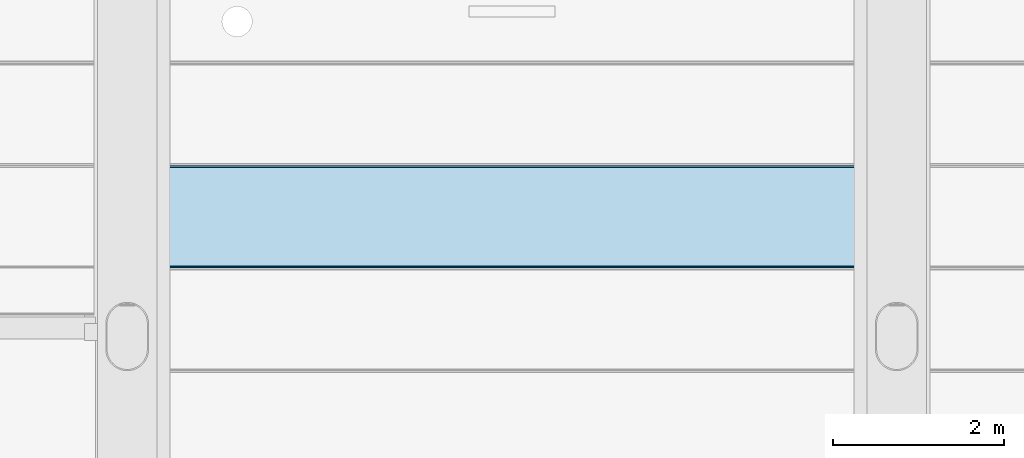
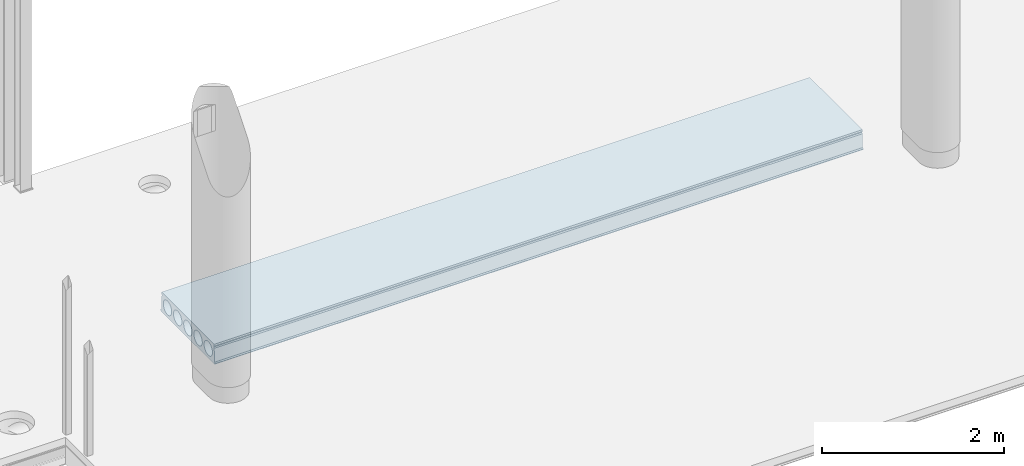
# One storey, part 12 of 34: 1 slab.
"""IFC2X3 building model written with IfcOpenShell, lengths in millimetres."""

from ifc_helpers import new_model, entity, si_unit, converted_unit, derived_unit, direction, frame, origin_with_axes, place, context, subcontext, project, spatial, polyline, outline, extrude, material, type_object, element, save


model = new_model("IFC2X3")

# Units and contexts
model_context = context("Model", 3, precision=0.01, world=frame((0.0, 4.29681676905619e-09, 0.0)), true_north=direction((4.01073788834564e-13, 1.0)))
plan_context = context("Plan", 3, precision=0.01, world=frame((0.0, 4.29681676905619e-09, 0.0)), true_north=direction((4.01073788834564e-13, 1.0)))
body_context = subcontext(model_context, "Body", "Model", "MODEL_VIEW")
ifc_project = project(units=[converted_unit("PLANEANGLEUNIT", "DEGREE", entity("IfcPositiveLengthMeasure", 0.0174532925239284), si_unit("PLANEANGLEUNIT", "RADIAN"), dimensions=[0, 0, 0, 0, 0, 0, 0]), si_unit("AREAUNIT", "SQUARE_METRE"), si_unit("LENGTHUNIT", "METRE", prefix="MILLI"), si_unit("MASSUNIT", "GRAM", prefix="KILO"), si_unit("POWERUNIT", "WATT"), si_unit("PRESSUREUNIT", "PASCAL"), si_unit("FORCEUNIT", "NEWTON", prefix="KILO"), si_unit("ELECTRICVOLTAGEUNIT", "VOLT"), si_unit("ELECTRICCURRENTUNIT", "AMPERE"), si_unit("THERMODYNAMICTEMPERATUREUNIT", "DEGREE_CELSIUS"), si_unit("TIMEUNIT", "SECOND"), si_unit("VOLUMEUNIT", "CUBIC_METRE"), derived_unit("LINEARVELOCITYUNIT", [(si_unit("LENGTHUNIT", "METRE"), 1), (si_unit("TIMEUNIT", "SECOND"), -1)]), derived_unit("VOLUMETRICFLOWRATEUNIT", [(si_unit("VOLUMEUNIT", "CUBIC_METRE"), 1), (si_unit("TIMEUNIT", "SECOND"), -1)]), derived_unit("THERMALTRANSMITTANCEUNIT", [(si_unit("POWERUNIT", "WATT"), 1), (si_unit("THERMODYNAMICTEMPERATUREUNIT", "KELVIN"), -1), (si_unit("AREAUNIT", "SQUARE_METRE"), -1)]), derived_unit("SOUNDPRESSUREUNIT", [(si_unit("PRESSUREUNIT", "PASCAL"), 1)])], contexts=[model_context, plan_context])

# Site, building, storey
site_placement = place(None, frame((0.0, -4.29681676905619e-09, 0.0), z_axis=(0.0, 0.0, 1.0), x_axis=(1.0, 0.0, 0.0)))
site = spatial("IfcSite", under=ifc_project, at=site_placement, Name="Gardermoen", CompositionType="ELEMENT")
building_placement = place(site_placement, frame((0.0, 4.29681676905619e-09, 0.0), z_axis=(0.0, 0.0, 1.0), x_axis=(1.0, 0.0, 0.0)))
building = spatial("IfcBuilding", under=site, at=building_placement, Name="TH", CompositionType="ELEMENT")
storey_placement = place(building_placement, origin_with_axes())
storey = spatial("IfcBuildingStorey", under=building, at=storey_placement, Name="F", CompositionType="ELEMENT", Elevation=0.0)

# Slab
ifc_material = material(Name="CONCRETE/C45/55")
slab_type = type_object("IfcSlabType", Name="HD265", PredefinedType="NOTDEFINED")
slab_placement = place(storey_placement, frame((898389.999766, 481699.989724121, 209897.5), z_axis=(0.0, 0.0, 1.0), x_axis=(1.0, 0.0, 0.0)))
element("IfcSlab", 1, at=slab_placement, inside=storey, type_object=slab_type, material=ifc_material, Name="HULLDEKKE", ObjectType="HD265", PredefinedType="FLOOR", context=body_context, shape_type="SweptSolid", body=[
    extrude(outline(polyline([(-583.380004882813, -132.5), (-600.0, -122.5), (-600.0, -112.5), (-585.0, -102.5), (-577.5, 77.5), (-570.0, 92.5), (-577.5, 107.5), (-577.5, 132.5), (577.5, 132.5), (577.5, 107.5), (570.0, 92.5), (577.5, 77.5), (585.0, -102.5), (600.0, -112.5), (600.0, -122.5), (583.380004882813, -132.5), (-583.380004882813, -132.5)]), holes=[polyline([(-539.238420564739, 15.2249996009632), (-540.184065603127, 7.63858945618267), (-540.5, 0.0), (-540.184065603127, -7.63858945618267), (-539.238420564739, -15.2249996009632), (-537.669524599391, -22.7074075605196), (-535.488094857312, -30.0347009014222), (-532.709032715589, -37.1568267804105), (-529.351321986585, -44.0251338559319), (-525.437899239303, -50.5927046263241), (-520.995497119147, -56.8146759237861), (-516.05446173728, -62.6485453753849), (-510.648545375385, -68.0544617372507), (-504.814675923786, -72.9954971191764), (-498.592704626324, -77.437899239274), (-492.025133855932, -81.3513219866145), (-485.15682678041, -84.7090327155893), (-478.034700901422, -87.4880948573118), (-470.707407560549, -89.6695245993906), (-463.224999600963, -91.2384205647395), (-455.638589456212, -92.1840656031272), (-448.0, -92.5), (-440.361410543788, -92.1840656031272), (-432.775000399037, -91.2384205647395), (-425.292592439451, -89.6695245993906), (-417.965299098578, -87.4880948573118), (-410.84317321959, -84.7090327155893), (-403.974866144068, -81.3513219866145), (-397.407295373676, -77.437899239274), (-391.185324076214, -72.9954971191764), (-385.351454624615, -68.0544617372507), (-379.94553826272, -62.6485453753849), (-375.004502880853, -56.8146759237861), (-370.562100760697, -50.5927046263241), (-366.648678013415, -44.0251338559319), (-363.290967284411, -37.1568267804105), (-360.511905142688, -30.0347009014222), (-358.330475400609, -22.7074075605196), (-356.761579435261, -15.2249996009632), (-355.815934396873, -7.63858945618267), (-355.5, 0.0), (-355.815934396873, 7.63858945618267), (-356.761579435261, 15.2249996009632), (-358.330475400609, 22.7074075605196), (-360.511905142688, 30.0347009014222), (-363.290967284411, 37.1568267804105), (-366.648678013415, 44.0251338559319), (-370.562100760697, 50.5927046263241), (-375.004502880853, 56.8146759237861), (-379.94553826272, 62.6485453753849), (-385.351454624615, 68.0544617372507), (-391.185324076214, 72.9954971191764), (-397.407295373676, 77.437899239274), (-403.974866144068, 81.3513219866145), (-410.84317321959, 84.7090327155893), (-417.965299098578, 87.4880948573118), (-425.292592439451, 89.6695245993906), (-432.775000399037, 91.2384205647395), (-440.361410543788, 92.1840656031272), (-448.0, 92.5), (-455.638589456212, 92.1840656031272), (-463.224999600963, 91.2384205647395), (-470.707407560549, 89.6695245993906), (-478.034700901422, 87.4880948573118), (-485.15682678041, 84.7090327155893), (-492.025133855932, 81.3513219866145), (-498.592704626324, 77.437899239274), (-504.814675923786, 72.9954971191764), (-510.648545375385, 68.0544617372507), (-516.05446173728, 62.6485453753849), (-520.995497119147, 56.8146759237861), (-525.437899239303, 50.5927046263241), (-529.351321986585, 44.0251338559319), (-532.709032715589, 37.1568267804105), (-535.488094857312, 30.0347009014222), (-537.669524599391, 22.7074075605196), (-539.238420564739, 15.2249996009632)]), polyline([(-315.238420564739, 15.2249996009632), (-316.184065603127, 7.63858945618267), (-316.5, 0.0), (-316.184065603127, -7.63858945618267), (-315.238420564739, -15.2249996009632), (-313.669524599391, -22.7074075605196), (-311.488094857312, -30.0347009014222), (-308.709032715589, -37.1568267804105), (-305.351321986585, -44.0251338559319), (-301.437899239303, -50.5927046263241), (-296.995497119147, -56.8146759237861), (-292.05446173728, -62.6485453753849), (-286.648545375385, -68.0544617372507), (-280.814675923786, -72.9954971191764), (-274.592704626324, -77.437899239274), (-268.025133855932, -81.3513219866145), (-261.15682678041, -84.7090327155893), (-254.034700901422, -87.4880948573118), (-246.707407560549, -89.6695245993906), (-239.224999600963, -91.2384205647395), (-231.638589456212, -92.1840656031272), (-224.0, -92.5), (-216.361410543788, -92.1840656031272), (-208.775000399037, -91.2384205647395), (-201.292592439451, -89.6695245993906), (-193.965299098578, -87.4880948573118), (-186.84317321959, -84.7090327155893), (-179.974866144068, -81.3513219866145), (-173.407295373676, -77.437899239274), (-167.185324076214, -72.9954971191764), (-161.351454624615, -68.0544617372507), (-155.94553826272, -62.6485453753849), (-151.004502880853, -56.8146759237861), (-146.562100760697, -50.5927046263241), (-142.648678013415, -44.0251338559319), (-139.290967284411, -37.1568267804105), (-136.511905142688, -30.0347009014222), (-134.330475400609, -22.7074075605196), (-132.761579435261, -15.2249996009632), (-131.815934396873, -7.63858945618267), (-131.5, 0.0), (-131.815934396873, 7.63858945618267), (-132.761579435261, 15.2249996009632), (-134.330475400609, 22.7074075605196), (-136.511905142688, 30.0347009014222), (-139.290967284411, 37.1568267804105), (-142.648678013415, 44.0251338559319), (-146.562100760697, 50.5927046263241), (-151.004502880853, 56.8146759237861), (-155.94553826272, 62.6485453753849), (-161.351454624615, 68.0544617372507), (-167.185324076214, 72.9954971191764), (-173.407295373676, 77.437899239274), (-179.974866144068, 81.3513219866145), (-186.84317321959, 84.7090327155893), (-193.965299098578, 87.4880948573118), (-201.292592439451, 89.6695245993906), (-208.775000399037, 91.2384205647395), (-216.361410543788, 92.1840656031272), (-224.0, 92.5), (-231.638589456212, 92.1840656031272), (-239.224999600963, 91.2384205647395), (-246.707407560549, 89.6695245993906), (-254.034700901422, 87.4880948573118), (-261.15682678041, 84.7090327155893), (-268.025133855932, 81.3513219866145), (-274.592704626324, 77.437899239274), (-280.814675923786, 72.9954971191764), (-286.648545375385, 68.0544617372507), (-292.05446173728, 62.6485453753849), (-296.995497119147, 56.8146759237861), (-301.437899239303, 50.5927046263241), (-305.351321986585, 44.0251338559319), (-308.709032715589, 37.1568267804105), (-311.488094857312, 30.0347009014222), (-313.669524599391, 22.7074075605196), (-315.238420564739, 15.2249996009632)]), polyline([(-91.2384205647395, 15.2249996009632), (-92.1840656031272, 7.63858945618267), (-92.5, 0.0), (-92.1840656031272, -7.63858945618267), (-91.2384205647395, -15.2249996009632), (-89.6695245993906, -22.7074075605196), (-87.4880948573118, -30.0347009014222), (-84.7090327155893, -37.1568267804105), (-81.3513219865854, -44.0251338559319), (-77.4378992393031, -50.5927046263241), (-72.9954971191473, -56.8146759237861), (-68.0544617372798, -62.6485453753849), (-62.6485453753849, -68.0544617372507), (-56.8146759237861, -72.9954971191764), (-50.5927046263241, -77.437899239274), (-44.0251338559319, -81.3513219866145), (-37.1568267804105, -84.7090327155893), (-30.0347009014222, -87.4880948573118), (-22.7074075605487, -89.6695245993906), (-15.2249996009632, -91.2384205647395), (-7.63858945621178, -92.1840656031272), (0.0, -92.5), (7.63858945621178, -92.1840656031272), (15.2249996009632, -91.2384205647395), (22.7074075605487, -89.6695245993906), (30.0347009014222, -87.4880948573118), (37.1568267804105, -84.7090327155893), (44.0251338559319, -81.3513219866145), (50.5927046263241, -77.437899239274), (56.8146759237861, -72.9954971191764), (62.6485453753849, -68.0544617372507), (68.0544617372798, -62.6485453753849), (72.9954971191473, -56.8146759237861), (77.4378992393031, -50.5927046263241), (81.3513219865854, -44.0251338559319), (84.7090327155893, -37.1568267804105), (87.4880948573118, -30.0347009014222), (89.6695245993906, -22.7074075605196), (91.2384205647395, -15.2249996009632), (92.1840656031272, -7.63858945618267), (92.5, 0.0), (92.1840656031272, 7.63858945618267), (91.2384205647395, 15.2249996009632), (89.6695245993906, 22.7074075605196), (87.4880948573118, 30.0347009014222), (84.7090327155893, 37.1568267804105), (81.3513219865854, 44.0251338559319), (77.4378992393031, 50.5927046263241), (72.9954971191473, 56.8146759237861), (68.0544617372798, 62.6485453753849), (62.6485453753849, 68.0544617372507), (56.8146759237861, 72.9954971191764), (50.5927046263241, 77.437899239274), (44.0251338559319, 81.3513219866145), (37.1568267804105, 84.7090327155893), (30.0347009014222, 87.4880948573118), (22.7074075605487, 89.6695245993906), (15.2249996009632, 91.2384205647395), (7.63858945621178, 92.1840656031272), (0.0, 92.5), (-7.63858945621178, 92.1840656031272), (-15.2249996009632, 91.2384205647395), (-22.7074075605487, 89.6695245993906), (-30.0347009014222, 87.4880948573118), (-37.1568267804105, 84.7090327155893), (-44.0251338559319, 81.3513219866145), (-50.5927046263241, 77.437899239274), (-56.8146759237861, 72.9954971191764), (-62.6485453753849, 68.0544617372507), (-68.0544617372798, 62.6485453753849), (-72.9954971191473, 56.8146759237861), (-77.4378992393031, 50.5927046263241), (-81.3513219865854, 44.0251338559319), (-84.7090327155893, 37.1568267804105), (-87.4880948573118, 30.0347009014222), (-89.6695245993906, 22.7074075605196), (-91.2384205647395, 15.2249996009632)]), polyline([(132.761579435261, 15.2249996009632), (131.815934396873, 7.63858945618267), (131.5, 0.0), (131.815934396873, -7.63858945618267), (132.761579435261, -15.2249996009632), (134.330475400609, -22.7074075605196), (136.511905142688, -30.0347009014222), (139.290967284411, -37.1568267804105), (142.648678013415, -44.0251338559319), (146.562100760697, -50.5927046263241), (151.004502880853, -56.8146759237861), (155.94553826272, -62.6485453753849), (161.351454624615, -68.0544617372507), (167.185324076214, -72.9954971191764), (173.407295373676, -77.437899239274), (179.974866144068, -81.3513219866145), (186.84317321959, -84.7090327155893), (193.965299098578, -87.4880948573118), (201.292592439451, -89.6695245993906), (208.775000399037, -91.2384205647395), (216.361410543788, -92.1840656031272), (224.0, -92.5), (231.638589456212, -92.1840656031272), (239.224999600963, -91.2384205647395), (246.707407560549, -89.6695245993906), (254.034700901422, -87.4880948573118), (261.15682678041, -84.7090327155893), (268.025133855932, -81.3513219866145), (274.592704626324, -77.437899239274), (280.814675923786, -72.9954971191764), (286.648545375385, -68.0544617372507), (292.05446173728, -62.6485453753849), (296.995497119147, -56.8146759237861), (301.437899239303, -50.5927046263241), (305.351321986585, -44.0251338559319), (308.709032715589, -37.1568267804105), (311.488094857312, -30.0347009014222), (313.669524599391, -22.7074075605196), (315.238420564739, -15.2249996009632), (316.184065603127, -7.63858945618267), (316.5, 0.0), (316.184065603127, 7.63858945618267), (315.238420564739, 15.2249996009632), (313.669524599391, 22.7074075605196), (311.488094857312, 30.0347009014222), (308.709032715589, 37.1568267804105), (305.351321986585, 44.0251338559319), (301.437899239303, 50.5927046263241), (296.995497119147, 56.8146759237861), (292.05446173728, 62.6485453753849), (286.648545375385, 68.0544617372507), (280.814675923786, 72.9954971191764), (274.592704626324, 77.437899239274), (268.025133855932, 81.3513219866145), (261.15682678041, 84.7090327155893), (254.034700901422, 87.4880948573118), (246.707407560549, 89.6695245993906), (239.224999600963, 91.2384205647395), (231.638589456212, 92.1840656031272), (224.0, 92.5), (216.361410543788, 92.1840656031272), (208.775000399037, 91.2384205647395), (201.292592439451, 89.6695245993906), (193.965299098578, 87.4880948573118), (186.84317321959, 84.7090327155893), (179.974866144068, 81.3513219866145), (173.407295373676, 77.437899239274), (167.185324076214, 72.9954971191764), (161.351454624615, 68.0544617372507), (155.94553826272, 62.6485453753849), (151.004502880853, 56.8146759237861), (146.562100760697, 50.5927046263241), (142.648678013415, 44.0251338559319), (139.290967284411, 37.1568267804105), (136.511905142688, 30.0347009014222), (134.330475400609, 22.7074075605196), (132.761579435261, 15.2249996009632)]), polyline([(356.761579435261, 15.2249996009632), (355.815934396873, 7.63858945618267), (355.5, 0.0), (355.815934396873, -7.63858945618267), (356.761579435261, -15.2249996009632), (358.330475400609, -22.7074075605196), (360.511905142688, -30.0347009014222), (363.290967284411, -37.1568267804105), (366.648678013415, -44.0251338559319), (370.562100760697, -50.5927046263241), (375.004502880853, -56.8146759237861), (379.94553826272, -62.6485453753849), (385.351454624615, -68.0544617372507), (391.185324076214, -72.9954971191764), (397.407295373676, -77.437899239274), (403.974866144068, -81.3513219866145), (410.84317321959, -84.7090327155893), (417.965299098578, -87.4880948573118), (425.292592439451, -89.6695245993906), (432.775000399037, -91.2384205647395), (440.361410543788, -92.1840656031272), (448.0, -92.5), (455.638589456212, -92.1840656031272), (463.224999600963, -91.2384205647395), (470.707407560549, -89.6695245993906), (478.034700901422, -87.4880948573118), (485.15682678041, -84.7090327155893), (492.025133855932, -81.3513219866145), (498.592704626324, -77.437899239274), (504.814675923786, -72.9954971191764), (510.648545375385, -68.0544617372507), (516.05446173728, -62.6485453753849), (520.995497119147, -56.8146759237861), (525.437899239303, -50.5927046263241), (529.351321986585, -44.0251338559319), (532.709032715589, -37.1568267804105), (535.488094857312, -30.0347009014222), (537.669524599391, -22.7074075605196), (539.238420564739, -15.2249996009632), (540.184065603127, -7.63858945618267), (540.5, 0.0), (540.184065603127, 7.63858945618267), (539.238420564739, 15.2249996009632), (537.669524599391, 22.7074075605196), (535.488094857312, 30.0347009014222), (532.709032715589, 37.1568267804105), (529.351321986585, 44.0251338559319), (525.437899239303, 50.5927046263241), (520.995497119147, 56.8146759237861), (516.05446173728, 62.6485453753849), (510.648545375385, 68.0544617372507), (504.814675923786, 72.9954971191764), (498.592704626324, 77.437899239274), (492.025133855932, 81.3513219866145), (485.15682678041, 84.7090327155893), (478.034700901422, 87.4880948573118), (470.707407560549, 89.6695245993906), (463.224999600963, 91.2384205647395), (455.638589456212, 92.1840656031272), (448.0, 92.5), (440.361410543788, 92.1840656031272), (432.775000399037, 91.2384205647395), (425.292592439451, 89.6695245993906), (417.965299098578, 87.4880948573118), (410.84317321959, 84.7090327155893), (403.974866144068, 81.3513219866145), (397.407295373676, 77.437899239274), (391.185324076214, 72.9954971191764), (385.351454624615, 68.0544617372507), (379.94553826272, 62.6485453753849), (375.004502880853, 56.8146759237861), (370.562100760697, 50.5927046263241), (366.648678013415, 44.0251338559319), (363.290967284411, 37.1568267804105), (360.511905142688, 30.0347009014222), (358.330475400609, 22.7074075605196), (356.761579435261, 15.2249996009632)])]), frame((8220.0, 0.0, 0.0), z_axis=(-1.0, 0.0, 6.61744490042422e-24), x_axis=(0.0, -1.0, 0.0)), (0.0, 0.0, 1.0), 8220.0),
])

save(model, "model.ifc")
